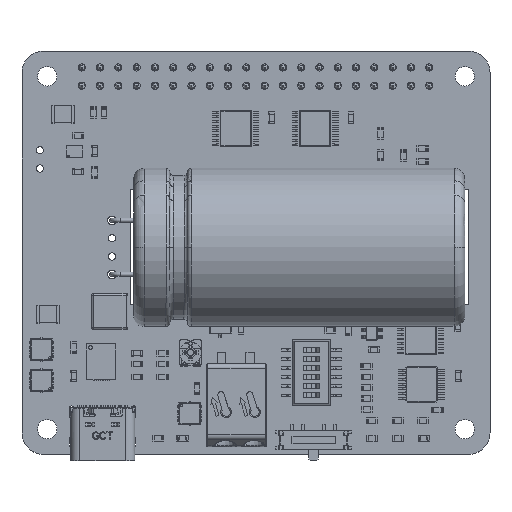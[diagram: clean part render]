
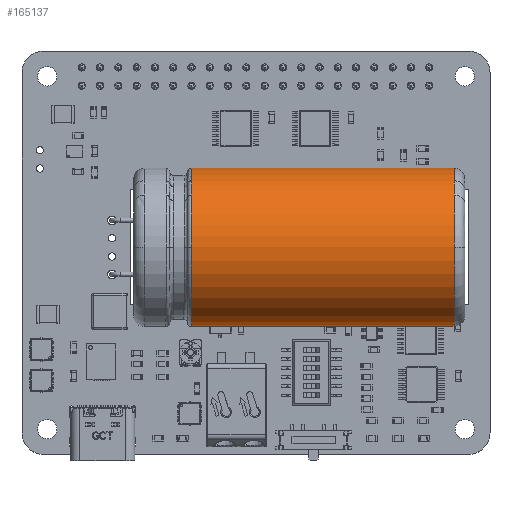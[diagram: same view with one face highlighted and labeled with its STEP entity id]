
A CAD part, top view. The second image highlights one B-rep face of the part: STEP entity #165137.
In plain terms, the highlighted cylindrical face has radius 11 mm (diameter 22 mm), a full revolution.
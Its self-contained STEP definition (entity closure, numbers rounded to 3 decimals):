
#164976 = VERTEX_POINT('',#164977);
#164977 = CARTESIAN_POINT('',(60.,36.14,17.876));
#165004 = VERTEX_POINT('',#165005);
#165005 = CARTESIAN_POINT('',(60.,38.108,15.612));
#165022 = EDGE_CURVE('',#164976,#165004,#165023,.T.);
#165023 = CIRCLE('',#165024,11.);
#165024 = AXIS2_PLACEMENT_3D('',#165025,#165026,#165027);
#165025 = CARTESIAN_POINT('',(60.,28.9,9.595));
#165026 = DIRECTION('',(-1.,0.,0.));
#165027 = DIRECTION('',(0.,0.,1.));
#165047 = VERTEX_POINT('',#165048);
#165048 = CARTESIAN_POINT('',(60.,28.9,-1.405));
#165055 = EDGE_CURVE('',#165004,#165047,#165056,.T.);
#165056 = CIRCLE('',#165057,11.);
#165057 = AXIS2_PLACEMENT_3D('',#165058,#165059,#165060);
#165058 = CARTESIAN_POINT('',(60.,28.9,9.595));
#165059 = DIRECTION('',(-1.,0.,0.));
#165060 = DIRECTION('',(0.,0.,1.));
#165082 = VERTEX_POINT('',#165083);
#165083 = CARTESIAN_POINT('',(60.,28.9,20.595));
#165090 = EDGE_CURVE('',#165047,#165082,#165091,.T.);
#165091 = CIRCLE('',#165092,11.);
#165092 = AXIS2_PLACEMENT_3D('',#165093,#165094,#165095);
#165093 = CARTESIAN_POINT('',(60.,28.9,9.595));
#165094 = DIRECTION('',(-1.,0.,0.));
#165095 = DIRECTION('',(0.,0.,1.));
#165114 = EDGE_CURVE('',#165082,#164976,#165115,.T.);
#165115 = CIRCLE('',#165116,11.);
#165116 = AXIS2_PLACEMENT_3D('',#165117,#165118,#165119);
#165117 = CARTESIAN_POINT('',(60.,28.9,9.595));
#165118 = DIRECTION('',(-1.,0.,0.));
#165119 = DIRECTION('',(0.,0.,1.));
#165137 = ADVANCED_FACE('',(#165138),#165186,.T.);
#165138 = FACE_BOUND('',#165139,.T.);
#165139 = EDGE_LOOP('',(#165140,#165141,#165142,#165143,#165144,#165151,
    #165160,#165169,#165178,#165185));
#165140 = ORIENTED_EDGE('',*,*,#165114,.T.);
#165141 = ORIENTED_EDGE('',*,*,#165022,.T.);
#165142 = ORIENTED_EDGE('',*,*,#165055,.T.);
#165143 = ORIENTED_EDGE('',*,*,#165090,.T.);
#165144 = ORIENTED_EDGE('',*,*,#165145,.T.);
#165145 = EDGE_CURVE('',#165082,#165146,#165148,.T.);
#165146 = VERTEX_POINT('',#165147);
#165147 = CARTESIAN_POINT('',(23.5,28.9,20.595));
#165148 = B_SPLINE_CURVE_WITH_KNOTS('',1,(#165149,#165150),
  .UNSPECIFIED.,.F.,.F.,(2,2),(-44.5,-8.),.PIECEWISE_BEZIER_KNOTS.);
#165149 = CARTESIAN_POINT('',(60.,28.9,20.595));
#165150 = CARTESIAN_POINT('',(23.5,28.9,20.595));
#165151 = ORIENTED_EDGE('',*,*,#165152,.T.);
#165152 = EDGE_CURVE('',#165146,#165153,#165155,.T.);
#165153 = VERTEX_POINT('',#165154);
#165154 = CARTESIAN_POINT('',(23.5,28.9,-1.405));
#165155 = CIRCLE('',#165156,11.);
#165156 = AXIS2_PLACEMENT_3D('',#165157,#165158,#165159);
#165157 = CARTESIAN_POINT('',(23.5,28.9,9.595));
#165158 = DIRECTION('',(1.,0.,0.));
#165159 = DIRECTION('',(0.,0.,-1.));
#165160 = ORIENTED_EDGE('',*,*,#165161,.T.);
#165161 = EDGE_CURVE('',#165153,#165162,#165164,.T.);
#165162 = VERTEX_POINT('',#165163);
#165163 = CARTESIAN_POINT('',(23.5,38.108,15.612));
#165164 = CIRCLE('',#165165,11.);
#165165 = AXIS2_PLACEMENT_3D('',#165166,#165167,#165168);
#165166 = CARTESIAN_POINT('',(23.5,28.9,9.595));
#165167 = DIRECTION('',(1.,0.,0.));
#165168 = DIRECTION('',(0.,0.,-1.));
#165169 = ORIENTED_EDGE('',*,*,#165170,.T.);
#165170 = EDGE_CURVE('',#165162,#165171,#165173,.T.);
#165171 = VERTEX_POINT('',#165172);
#165172 = CARTESIAN_POINT('',(23.5,36.14,17.876));
#165173 = CIRCLE('',#165174,11.);
#165174 = AXIS2_PLACEMENT_3D('',#165175,#165176,#165177);
#165175 = CARTESIAN_POINT('',(23.5,28.9,9.595));
#165176 = DIRECTION('',(1.,0.,0.));
#165177 = DIRECTION('',(0.,0.,-1.));
#165178 = ORIENTED_EDGE('',*,*,#165179,.T.);
#165179 = EDGE_CURVE('',#165171,#165146,#165180,.T.);
#165180 = CIRCLE('',#165181,11.);
#165181 = AXIS2_PLACEMENT_3D('',#165182,#165183,#165184);
#165182 = CARTESIAN_POINT('',(23.5,28.9,9.595));
#165183 = DIRECTION('',(1.,0.,0.));
#165184 = DIRECTION('',(0.,0.,-1.));
#165185 = ORIENTED_EDGE('',*,*,#165145,.F.);
#165186 = CYLINDRICAL_SURFACE('',#165187,11.);
#165187 = AXIS2_PLACEMENT_3D('',#165188,#165189,#165190);
#165188 = CARTESIAN_POINT('',(15.5,28.9,9.595));
#165189 = DIRECTION('',(-1.,0.,0.));
#165190 = DIRECTION('',(0.,0.,1.));
